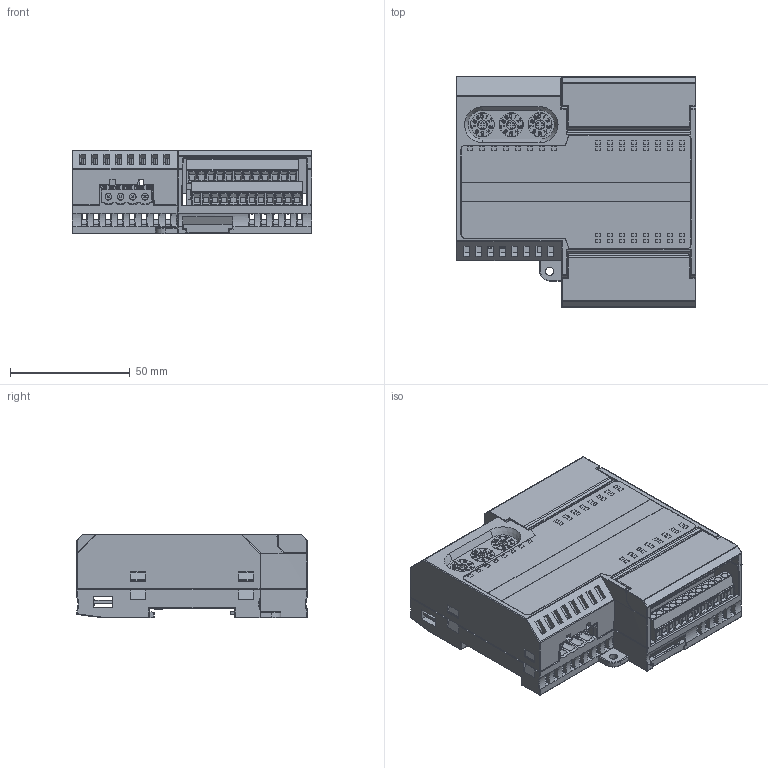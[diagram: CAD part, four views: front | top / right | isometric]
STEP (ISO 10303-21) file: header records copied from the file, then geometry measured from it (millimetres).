
FILE_DESCRIPTION((''),'2;1');
FILE_NAME('SH768_ASM_SW0003_1_1','2023-04-19T14:23:09',('董'),(''),'CREO PARAMETRIC BY PTC INC, 2020033','CREO PARAMETRIC BY PTC INC, 2020033','');
FILE_SCHEMA(('CONFIG_CONTROL_DESIGN'));
Products named in the file (1): SH768_ASM_SW0003_1_1
Bounding box: 100 x 96 x 35 mm (x, y, z)
Volume: 90814.4 mm3; surface area: 90553.3 mm2
Topology: 1 solids, 1 shells, 5878 faces, 16106 edges, 10392 vertices
Faces by surface type: plane 4610, cylinder 914, cone 148, bspline 94, sphere 59, torus 48, extrusion 5
Entity records: 187583 total; most frequent: CARTESIAN_POINT 39309, ORIENTED_EDGE 32082, DIRECTION 28430, EDGE_CURVE 16041, VECTOR 13318, LINE 13313, VERTEX_POINT 10392, AXIS2_PLACEMENT_3D 7556
